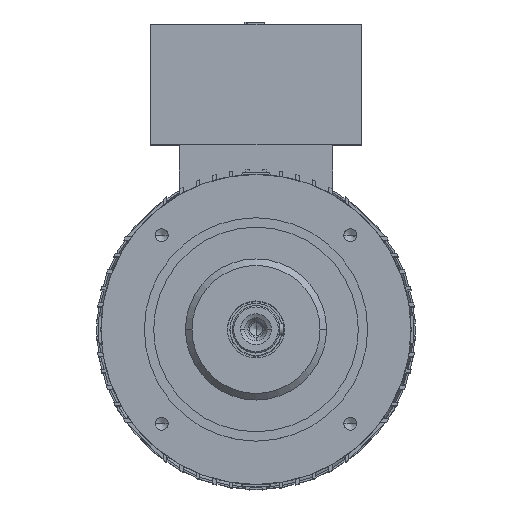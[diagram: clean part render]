
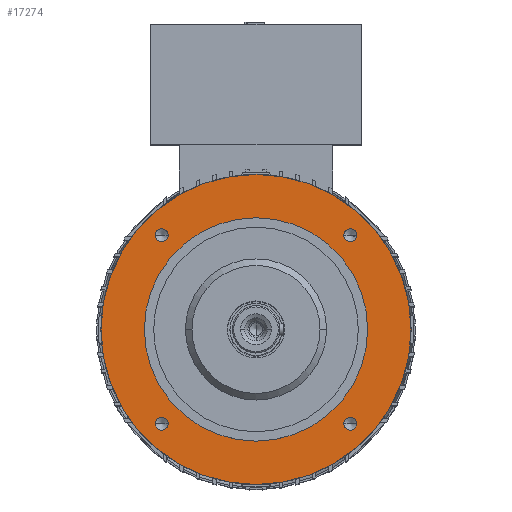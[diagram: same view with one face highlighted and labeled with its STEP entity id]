
A CAD part, top view. The second image highlights one B-rep face of the part: STEP entity #17274.
In plain terms, the highlighted planar face has unit normal (0, 0, 1).
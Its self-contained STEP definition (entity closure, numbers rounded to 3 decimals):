
#553 = AXIS2_PLACEMENT_3D ( 'NONE', #1046, #6087, #7987 ) ;
#694 = DIRECTION ( 'NONE',  ( 1., 0., 0. ) ) ;
#978 = AXIS2_PLACEMENT_3D ( 'NONE', #4123, #21606, #9436 ) ;
#1046 = CARTESIAN_POINT ( 'NONE',  ( 76.014, 76.014, 178. ) ) ;
#1120 = VERTEX_POINT ( 'NONE', #13284 ) ;
#1325 = AXIS2_PLACEMENT_3D ( 'NONE', #12214, #3459, #21180 ) ;
#1403 = CARTESIAN_POINT ( 'NONE',  ( -90., 0., 178. ) ) ;
#1485 = DIRECTION ( 'NONE',  ( 0., 0., 1. ) ) ;
#1537 = DIRECTION ( 'NONE',  ( 0., 0., 1. ) ) ;
#1697 = EDGE_CURVE ( 'NONE', #8875, #3111, #17717, .T. ) ;
#1967 = VERTEX_POINT ( 'NONE', #13052 ) ;
#2063 = CIRCLE ( 'NONE', #21741, 5.25 ) ;
#2244 = FACE_BOUND ( 'NONE', #21618, .T. ) ;
#2401 = AXIS2_PLACEMENT_3D ( 'NONE', #20784, #1537, #22773 ) ;
#2445 = DIRECTION ( 'NONE',  ( 0., 0., 1. ) ) ;
#2459 = EDGE_CURVE ( 'NONE', #13950, #12526, #2771, .T. ) ;
#2620 = DIRECTION ( 'NONE',  ( 1., 0., 0. ) ) ;
#2741 = CARTESIAN_POINT ( 'NONE',  ( 125., 0., 178. ) ) ;
#2771 = CIRCLE ( 'NONE', #13659, 5.25 ) ;
#3111 = VERTEX_POINT ( 'NONE', #15041 ) ;
#3334 = FACE_BOUND ( 'NONE', #22858, .T. ) ;
#3459 = DIRECTION ( 'NONE',  ( 0., 0., 1. ) ) ;
#4103 = DIRECTION ( 'NONE',  ( 0., 0., -1. ) ) ;
#4123 = CARTESIAN_POINT ( 'NONE',  ( 0., 0., 178. ) ) ;
#4324 = DIRECTION ( 'NONE',  ( -1., 0., 0. ) ) ;
#4480 = CARTESIAN_POINT ( 'NONE',  ( 0., 0., 178. ) ) ;
#4976 = VERTEX_POINT ( 'NONE', #1403 ) ;
#5018 = CIRCLE ( 'NONE', #13885, 125. ) ;
#5054 = CIRCLE ( 'NONE', #12510, 5.25 ) ;
#5253 = EDGE_LOOP ( 'NONE', ( #22055, #12239 ) ) ;
#5330 = EDGE_CURVE ( 'NONE', #11664, #11213, #2063, .T. ) ;
#5556 = EDGE_CURVE ( 'NONE', #1120, #9189, #17209, .T. ) ;
#6087 = DIRECTION ( 'NONE',  ( 0., 0., 1. ) ) ;
#6800 = DIRECTION ( 'NONE',  ( 1., 0., 0. ) ) ;
#6886 = CIRCLE ( 'NONE', #978, 90. ) ;
#6935 = CIRCLE ( 'NONE', #1325, 5.25 ) ;
#6949 = EDGE_CURVE ( 'NONE', #9189, #1120, #5054, .T. ) ;
#7459 = AXIS2_PLACEMENT_3D ( 'NONE', #16865, #9713, #2620 ) ;
#7878 = DIRECTION ( 'NONE',  ( -1., 0., 0. ) ) ;
#7987 = DIRECTION ( 'NONE',  ( 1., 0., 0. ) ) ;
#8424 = CARTESIAN_POINT ( 'NONE',  ( -76.014, -76.014, 178. ) ) ;
#8875 = VERTEX_POINT ( 'NONE', #9131 ) ;
#8912 = ORIENTED_EDGE ( 'NONE', *, *, #5556, .F. ) ;
#9131 = CARTESIAN_POINT ( 'NONE',  ( 81.264, -76.014, 178. ) ) ;
#9189 = VERTEX_POINT ( 'NONE', #10544 ) ;
#9436 = DIRECTION ( 'NONE',  ( -1., 0., 0. ) ) ;
#9480 = ORIENTED_EDGE ( 'NONE', *, *, #1697, .F. ) ;
#9641 = VERTEX_POINT ( 'NONE', #2741 ) ;
#9688 = EDGE_CURVE ( 'NONE', #11213, #11664, #18357, .T. ) ;
#9713 = DIRECTION ( 'NONE',  ( 0., 0., 1. ) ) ;
#9964 = CIRCLE ( 'NONE', #18151, 125. ) ;
#10042 = CARTESIAN_POINT ( 'NONE',  ( 0., 0., 178. ) ) ;
#10242 = FACE_OUTER_BOUND ( 'NONE', #11526, .T. ) ;
#10315 = EDGE_LOOP ( 'NONE', ( #9480, #21438 ) ) ;
#10525 = CARTESIAN_POINT ( 'NONE',  ( -81.264, -76.014, 178. ) ) ;
#10544 = CARTESIAN_POINT ( 'NONE',  ( -70.764, 76.014, 178. ) ) ;
#11213 = VERTEX_POINT ( 'NONE', #20002 ) ;
#11526 = EDGE_LOOP ( 'NONE', ( #19319, #20851 ) ) ;
#11569 = DIRECTION ( 'NONE',  ( 0., 0., 1. ) ) ;
#11664 = VERTEX_POINT ( 'NONE', #15911 ) ;
#11742 = CIRCLE ( 'NONE', #7459, 5.25 ) ;
#11926 = EDGE_CURVE ( 'NONE', #15639, #4976, #21460, .T. ) ;
#12011 = CARTESIAN_POINT ( 'NONE',  ( 0., 0., 178. ) ) ;
#12214 = CARTESIAN_POINT ( 'NONE',  ( -76.014, -76.014, 178. ) ) ;
#12239 = ORIENTED_EDGE ( 'NONE', *, *, #11926, .F. ) ;
#12510 = AXIS2_PLACEMENT_3D ( 'NONE', #15553, #1485, #6800 ) ;
#12526 = VERTEX_POINT ( 'NONE', #10525 ) ;
#12985 = ORIENTED_EDGE ( 'NONE', *, *, #2459, .F. ) ;
#13052 = CARTESIAN_POINT ( 'NONE',  ( -125., 0., 178. ) ) ;
#13284 = CARTESIAN_POINT ( 'NONE',  ( -81.264, 76.014, 178. ) ) ;
#13555 = FACE_BOUND ( 'NONE', #10315, .T. ) ;
#13593 = EDGE_CURVE ( 'NONE', #3111, #8875, #11742, .T. ) ;
#13659 = AXIS2_PLACEMENT_3D ( 'NONE', #8424, #20744, #15272 ) ;
#13752 = DIRECTION ( 'NONE',  ( -1., 0., 0. ) ) ;
#13885 = AXIS2_PLACEMENT_3D ( 'NONE', #4480, #15184, #7878 ) ;
#13949 = ORIENTED_EDGE ( 'NONE', *, *, #5330, .F. ) ;
#13950 = VERTEX_POINT ( 'NONE', #18085 ) ;
#14331 = ORIENTED_EDGE ( 'NONE', *, *, #9688, .F. ) ;
#14384 = AXIS2_PLACEMENT_3D ( 'NONE', #18460, #11569, #694 ) ;
#14807 = CARTESIAN_POINT ( 'NONE',  ( 0., 0., 178. ) ) ;
#14937 = FACE_BOUND ( 'NONE', #20347, .T. ) ;
#15041 = CARTESIAN_POINT ( 'NONE',  ( 70.764, -76.014, 178. ) ) ;
#15184 = DIRECTION ( 'NONE',  ( 0., 0., -1. ) ) ;
#15215 = DIRECTION ( 'NONE',  ( 0., 0., -1. ) ) ;
#15272 = DIRECTION ( 'NONE',  ( 1., 0., 0. ) ) ;
#15346 = DIRECTION ( 'NONE',  ( -1., 0., 0. ) ) ;
#15434 = PLANE ( 'NONE',  #22275 ) ;
#15553 = CARTESIAN_POINT ( 'NONE',  ( -76.014, 76.014, 178. ) ) ;
#15639 = VERTEX_POINT ( 'NONE', #16652 ) ;
#15911 = CARTESIAN_POINT ( 'NONE',  ( 70.764, 76.014, 178. ) ) ;
#16116 = EDGE_CURVE ( 'NONE', #4976, #15639, #6886, .T. ) ;
#16652 = CARTESIAN_POINT ( 'NONE',  ( 90., 0., 178. ) ) ;
#16865 = CARTESIAN_POINT ( 'NONE',  ( 76.014, -76.014, 178. ) ) ;
#17209 = CIRCLE ( 'NONE', #14384, 5.25 ) ;
#17274 = ADVANCED_FACE ( 'NONE', ( #2244, #3334, #13555, #14937, #10242, #21546 ), #15434, .F. ) ;
#17653 = EDGE_CURVE ( 'NONE', #1967, #9641, #9964, .T. ) ;
#17717 = CIRCLE ( 'NONE', #2401, 5.25 ) ;
#17767 = EDGE_CURVE ( 'NONE', #9641, #1967, #5018, .T. ) ;
#18060 = EDGE_CURVE ( 'NONE', #12526, #13950, #6935, .T. ) ;
#18085 = CARTESIAN_POINT ( 'NONE',  ( -70.764, -76.014, 178. ) ) ;
#18151 = AXIS2_PLACEMENT_3D ( 'NONE', #14807, #4103, #4324 ) ;
#18309 = DIRECTION ( 'NONE',  ( 1., 0., 0. ) ) ;
#18314 = AXIS2_PLACEMENT_3D ( 'NONE', #10042, #22213, #15346 ) ;
#18357 = CIRCLE ( 'NONE', #553, 5.25 ) ;
#18460 = CARTESIAN_POINT ( 'NONE',  ( -76.014, 76.014, 178. ) ) ;
#19319 = ORIENTED_EDGE ( 'NONE', *, *, #17653, .F. ) ;
#20002 = CARTESIAN_POINT ( 'NONE',  ( 81.264, 76.014, 178. ) ) ;
#20007 = CARTESIAN_POINT ( 'NONE',  ( 76.014, 76.014, 178. ) ) ;
#20286 = ORIENTED_EDGE ( 'NONE', *, *, #18060, .F. ) ;
#20347 = EDGE_LOOP ( 'NONE', ( #12985, #20286 ) ) ;
#20744 = DIRECTION ( 'NONE',  ( 0., 0., 1. ) ) ;
#20784 = CARTESIAN_POINT ( 'NONE',  ( 76.014, -76.014, 178. ) ) ;
#20851 = ORIENTED_EDGE ( 'NONE', *, *, #17767, .F. ) ;
#21180 = DIRECTION ( 'NONE',  ( 1., 0., 0. ) ) ;
#21223 = ORIENTED_EDGE ( 'NONE', *, *, #6949, .F. ) ;
#21438 = ORIENTED_EDGE ( 'NONE', *, *, #13593, .F. ) ;
#21460 = CIRCLE ( 'NONE', #18314, 90. ) ;
#21546 = FACE_BOUND ( 'NONE', #5253, .T. ) ;
#21606 = DIRECTION ( 'NONE',  ( 0., 0., 1. ) ) ;
#21618 = EDGE_LOOP ( 'NONE', ( #21223, #8912 ) ) ;
#21741 = AXIS2_PLACEMENT_3D ( 'NONE', #20007, #2445, #18309 ) ;
#22055 = ORIENTED_EDGE ( 'NONE', *, *, #16116, .F. ) ;
#22213 = DIRECTION ( 'NONE',  ( 0., 0., 1. ) ) ;
#22275 = AXIS2_PLACEMENT_3D ( 'NONE', #12011, #15215, #13752 ) ;
#22773 = DIRECTION ( 'NONE',  ( 1., 0., 0. ) ) ;
#22858 = EDGE_LOOP ( 'NONE', ( #14331, #13949 ) ) ;
